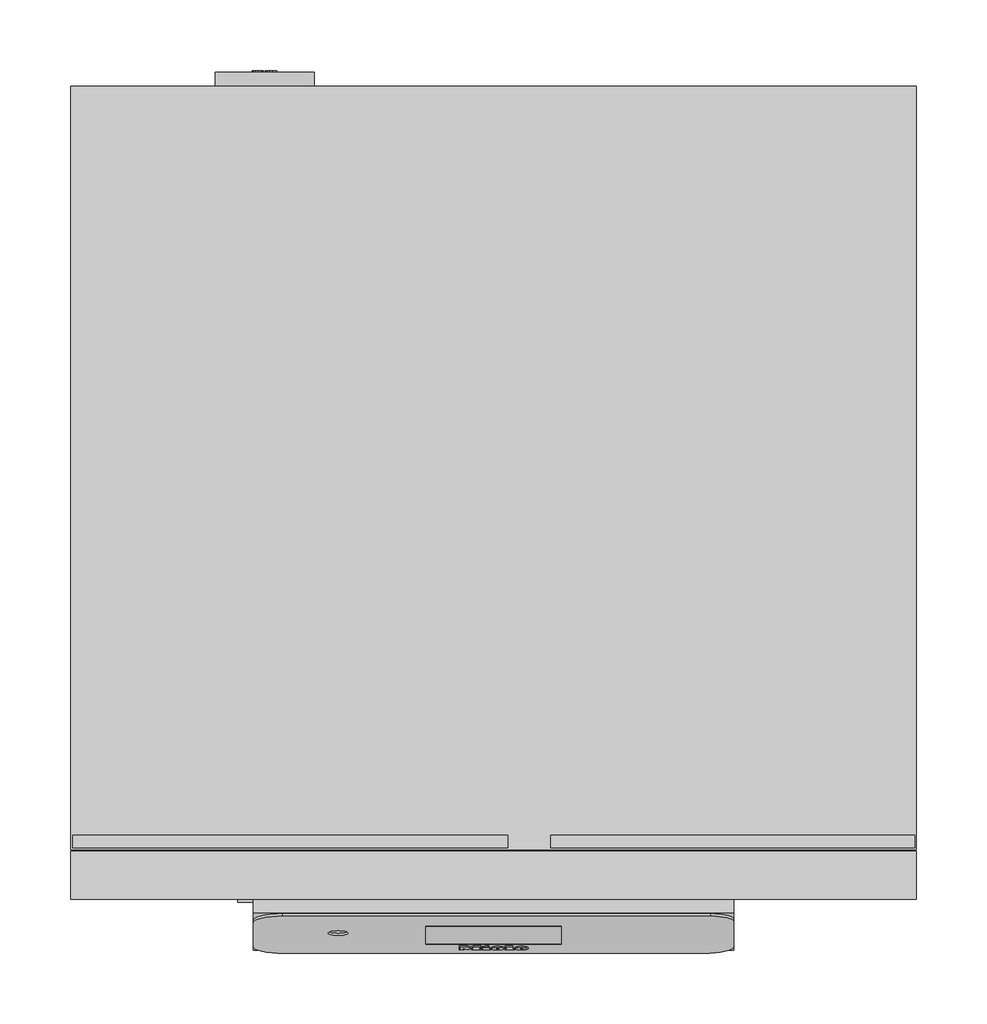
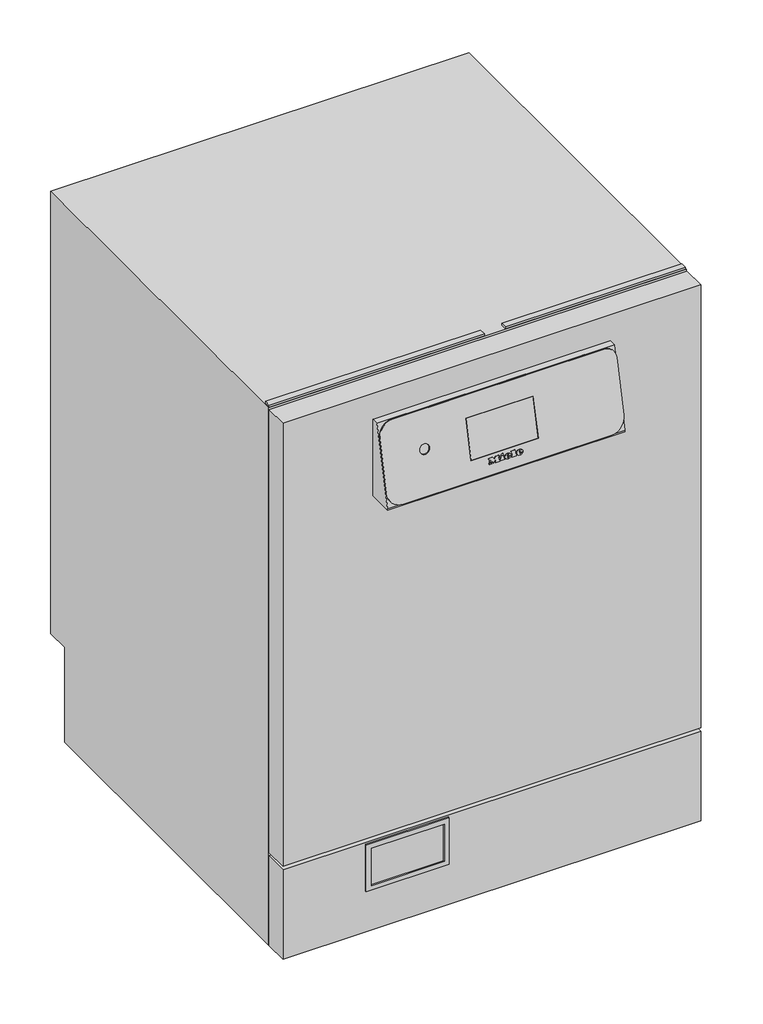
# Not in any storey: 1 proxy.
"""IFC4 building model written with IfcOpenShell, lengths in millimetres."""

from ifc_helpers import new_model, si_unit, origin, place, context, project, spatial, transform, mapped, element, save
from components import specialty_equipment_acc9bd21

model = new_model("IFC4")

# Units and contexts
model_context = context("Model", 3, world=origin())
ifc_project = project(units=[si_unit("LENGTHUNIT", "METRE", prefix="MILLI")], contexts=[model_context])

# Site, building
site = spatial("IfcSite", under=ifc_project)
building = spatial("IfcBuilding", under=site)

# Proxy
placement = place(None, origin())
specialty_equipment_shape = specialty_equipment_acc9bd21(model_context)
element("IfcBuildingElementProxy", 1, Name="12065180_DAC_PFD402U_SST : 61040230_DAC_12065180_PFD402U_SST", ObjectType="12065180_DAC_PFD402U_SST : 61040230_DAC_12065180_PFD402U_SST", at=placement, inside=building, context=model_context, shape_type="MappedRepresentation", body=[
    mapped(specialty_equipment_shape, transform((0.0, 0.0, 0.0), x_axis=(1.0, 0.0, 0.0), y_axis=(0.0, 1.0, 0.0), z_axis=(0.0, 0.0, 1.0))),
])

save(model, "model.ifc")
